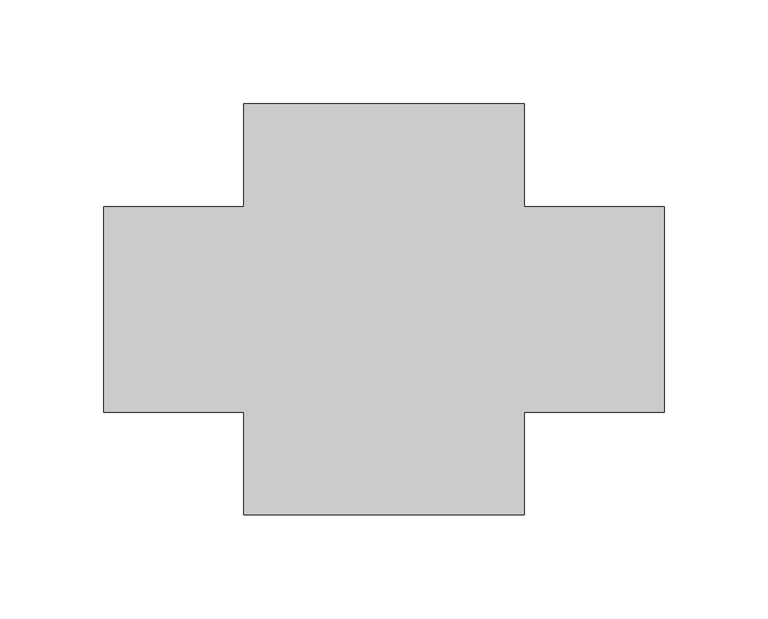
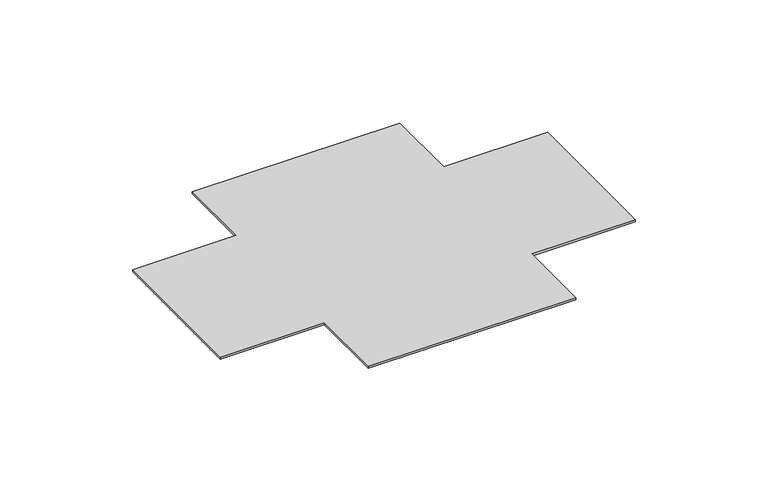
"""IFC4 building model written with IfcOpenShell, lengths in millimetres: cable carrier fitting geometry, КНС_ПластинаМонтажная_DKC : для коробок 300х220мм."""

from ifc_helpers import new_model, si_unit, origin, origin_with_axes, place, context, project, spatial, polyline, outline, extrude, source, transform, mapped, element, save


def cable_carrier_fitting_1495f8f4(model_context):
    return source(origin(), model_context, "Body", "SweptSolid", [
        extrude(outline(polyline([(67.5, 99.0), (67.5, 49.5), (135.0, 49.5), (135.0, -49.5), (67.5, -49.5), (67.5, -99.0), (-67.5, -99.0), (-67.5, -49.5), (-135.0, -49.5), (-135.0, 49.5), (-67.5, 49.5), (-67.5, 99.0), (67.5, 99.0)])), origin_with_axes(), (0.0, 0.0, 1.0), 1.5),
    ])


if __name__ == "__main__":
    model = new_model("IFC4")
    model_context = context("Model", 3, world=origin())
    ifc_project = project(units=[si_unit("LENGTHUNIT", "METRE", prefix="MILLI")], contexts=[model_context])
    site = spatial("IfcSite", under=ifc_project)
    building = spatial("IfcBuilding", under=site)
    placement = place(None, origin())
    cable_carrier_fitting_shape = cable_carrier_fitting_1495f8f4(model_context)
    element("IfcCableCarrierFitting", 1, ObjectType="КНС_ПластинаМонтажная_DKC : для коробок 300х220мм", at=placement, inside=building, context=model_context, shape_type="MappedRepresentation", body=[
        mapped(cable_carrier_fitting_shape, transform((0.0, 0.0, 0.0), x_axis=(1.0, 0.0, 0.0), y_axis=(0.0, 1.0, 0.0), z_axis=(0.0, 0.0, 1.0))),
    ])
    save(model, "model.ifc")
